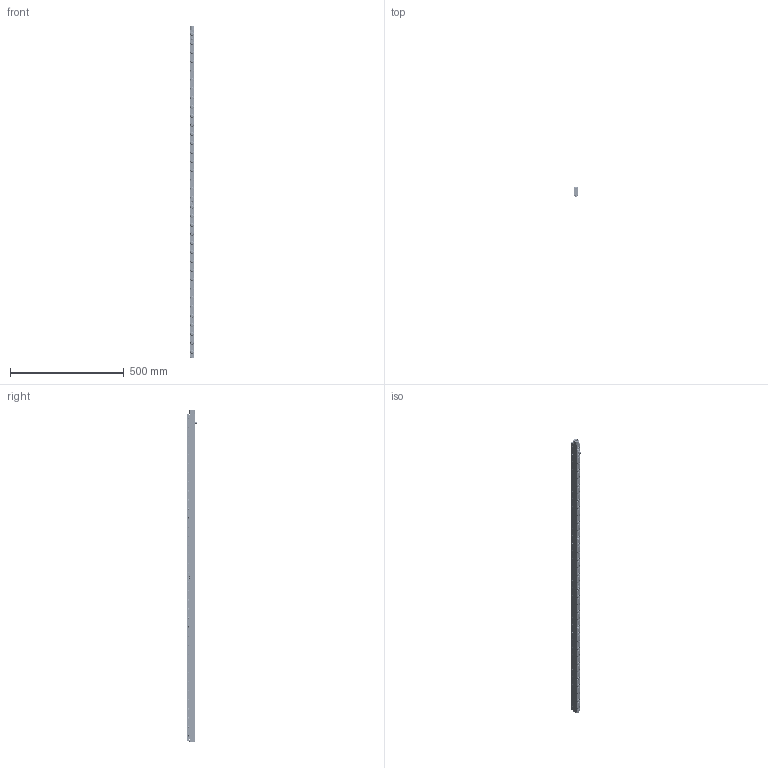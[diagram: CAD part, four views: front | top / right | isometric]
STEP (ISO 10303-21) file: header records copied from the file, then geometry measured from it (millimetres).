
FILE_DESCRIPTION(/* description */ ('EHR22-36'),/* implementation_level */ '2;1');
FILE_NAME(/* name */ 'S:\EASCN Vault\Designs\Standard Part\DIE LIFTERS\EHR\EHR- 3D step\EHR22 - 3D step complete serie\EHR22-36.stp',/* time_stamp */ '2019-10-28T16:50:30+08:00',/* author */ ('yue.yang'),/* organization */ (''),/* preprocessor_version */ 'ST-DEVELOPER v17',/* originating_system */ 'Autodesk Inventor 2019',/* authorisation */ '');
FILE_SCHEMA (('AUTOMOTIVE_DESIGN { 1 0 10303 214 3 1 1 }'));
Products named in the file (2): EHR22-36; EHR22-36_Substitute_1
Assembly tree (1 placements, depth 2):
  EHR22-36
    EHR22-36_Substitute_1
Bounding box: 21.8 x 48.05 x 1462 mm (x, y, z)
Volume: 898229.8 mm3; surface area: 368725.3 mm2
Topology: 126 solids, 126 shells, 2021 faces, 5696 edges, 3957 vertices
Faces by surface type: cylinder 701, plane 484, cone 430, torus 332, sphere 74
Full cylindrical faces by diameter (mm): 2.459 x16, 3 x9, 3.2 x8, 4 x20, 5 x108, 6 x46, 7.5 x2, 8.566 x1, 10 x11, 11 x36, 12.5 x72, 13.4 x36, 13.8 x36, 15.95 x72, 16 x72
Entity records: 73819 total; most frequent: CARTESIAN_POINT 16411, DIRECTION 12813, ORIENTED_EDGE 11268, AXIS2_PLACEMENT_3D 5699, EDGE_CURVE 5634, VERTEX_POINT 3957, CIRCLE 3675, EDGE_LOOP 2391
